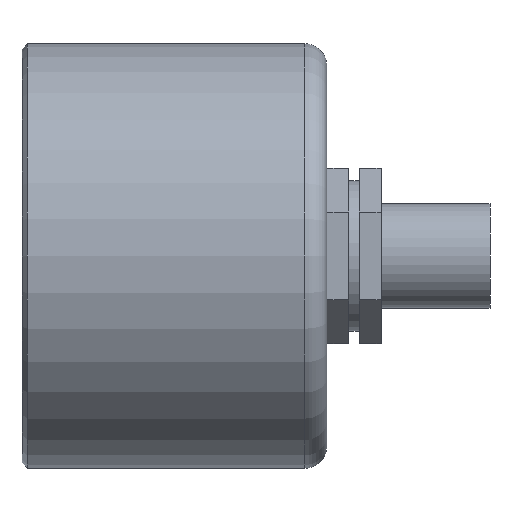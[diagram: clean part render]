
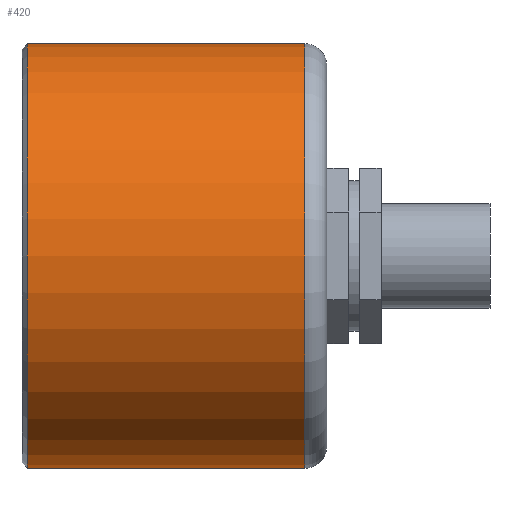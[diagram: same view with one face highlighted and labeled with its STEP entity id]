
A CAD part, left-side view. The second image highlights one B-rep face of the part: STEP entity #420.
In plain terms, the highlighted cylindrical face has radius 19.5 mm (diameter 39 mm), a full revolution.
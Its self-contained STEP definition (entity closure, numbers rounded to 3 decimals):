
#45=FACE_OUTER_BOUND('',#69,.T.);
#69=EDGE_LOOP('',(#306,#307,#308,#309,#310,#311));
#104=LINE('',#657,#144);
#144=VECTOR('',#536,19.5);
#171=CIRCLE('',#467,19.5);
#172=CIRCLE('',#468,19.5);
#173=CIRCLE('',#469,19.5);
#174=CIRCLE('',#470,19.5);
#197=VERTEX_POINT('',#654);
#198=VERTEX_POINT('',#656);
#199=VERTEX_POINT('',#658);
#200=VERTEX_POINT('',#660);
#240=EDGE_CURVE('',#197,#197,#171,.T.);
#241=EDGE_CURVE('',#197,#198,#104,.T.);
#242=EDGE_CURVE('',#199,#198,#172,.T.);
#243=EDGE_CURVE('',#200,#199,#173,.T.);
#244=EDGE_CURVE('',#198,#200,#174,.T.);
#306=ORIENTED_EDGE('',*,*,#240,.F.);
#307=ORIENTED_EDGE('',*,*,#241,.T.);
#308=ORIENTED_EDGE('',*,*,#242,.F.);
#309=ORIENTED_EDGE('',*,*,#243,.F.);
#310=ORIENTED_EDGE('',*,*,#244,.F.);
#311=ORIENTED_EDGE('',*,*,#241,.F.);
#387=CYLINDRICAL_SURFACE('',#466,19.5);
#420=ADVANCED_FACE('',(#45),#387,.T.);
#466=AXIS2_PLACEMENT_3D('',#653,#532,#533);
#467=AXIS2_PLACEMENT_3D('',#655,#534,#535);
#468=AXIS2_PLACEMENT_3D('',#659,#537,#538);
#469=AXIS2_PLACEMENT_3D('',#661,#539,#540);
#470=AXIS2_PLACEMENT_3D('',#662,#541,#542);
#532=DIRECTION('center_axis',(0.,1.,0.));
#533=DIRECTION('ref_axis',(-1.,0.,0.));
#534=DIRECTION('center_axis',(0.,1.,0.));
#535=DIRECTION('ref_axis',(-1.,0.,0.));
#536=DIRECTION('',(0.,-1.,0.));
#537=DIRECTION('center_axis',(0.,-1.,0.));
#538=DIRECTION('ref_axis',(1.,0.,0.));
#539=DIRECTION('center_axis',(0.,-1.,0.));
#540=DIRECTION('ref_axis',(1.,0.,0.));
#541=DIRECTION('center_axis',(0.,-1.,0.));
#542=DIRECTION('ref_axis',(1.,0.,0.));
#653=CARTESIAN_POINT('Origin',(0.,27.5,0.));
#654=CARTESIAN_POINT('',(19.5,42.5,0.));
#655=CARTESIAN_POINT('Origin',(0.,42.5,0.));
#656=CARTESIAN_POINT('',(19.5,17.,0.));
#657=CARTESIAN_POINT('',(19.5,27.5,0.));
#658=CARTESIAN_POINT('',(0.,17.,-19.5));
#659=CARTESIAN_POINT('Origin',(0.,17.,0.));
#660=CARTESIAN_POINT('',(-19.5,17.,0.));
#661=CARTESIAN_POINT('Origin',(0.,17.,0.));
#662=CARTESIAN_POINT('Origin',(0.,17.,0.));
